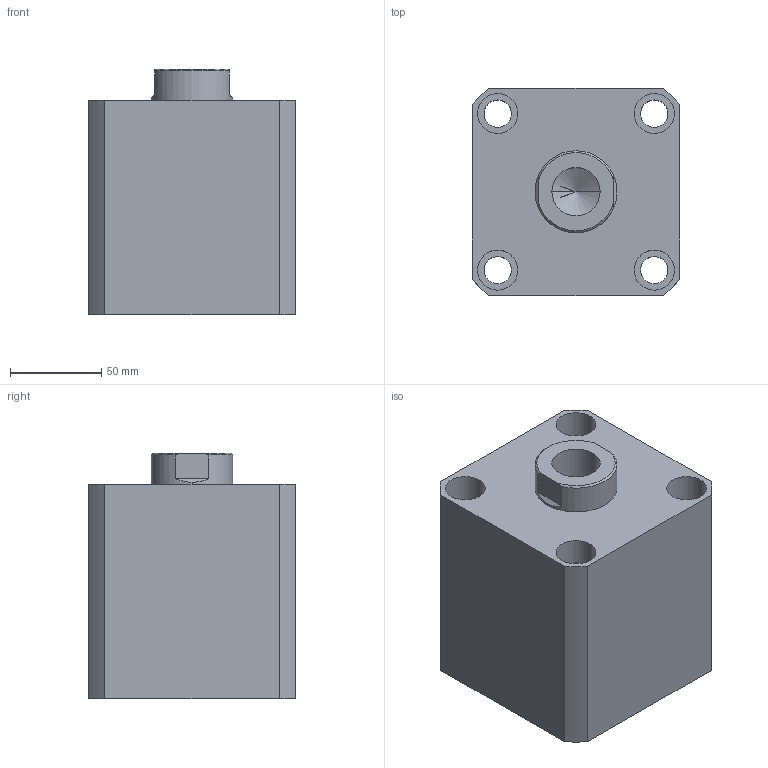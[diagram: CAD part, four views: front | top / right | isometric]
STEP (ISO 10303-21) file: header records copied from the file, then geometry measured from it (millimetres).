
FILE_DESCRIPTION (( 'STEP AP203' ), '1' );
FILE_NAME ('HTB-SDMB80-40N.STEP', '2019-10-09T06:03:37', ( '微软用户' ), ( '微软中国' ), 'SwSTEP 2.0', 'SolidWorks 2012', '' );
FILE_SCHEMA (( 'CONFIG_CONTROL_DESIGN' ));
Length unit declared in the file: millimetre
Products named in the file (3): HTB-SDMB80-40掛极; HTB-SDMB80-40N活塞杆; HTB-SDMB80-40N
Assembly tree (2 placements, depth 2):
  HTB-SDMB80-40N
    HTB-SDMB80-40掛极
    HTB-SDMB80-40N活塞杆
Bounding box: 114 x 114 x 135 mm (x, y, z)
Volume: 1272687.8 mm3; surface area: 163743.8 mm2
Topology: 2 solids, 2 shells, 137 faces, 331 edges, 217 vertices
Faces by surface type: plane 65, cylinder 46, bspline 16, torus 6, cone 4
Entity records: 5070 total; most frequent: CARTESIAN_POINT 1576, ORIENTED_EDGE 658, DIRECTION 647, EDGE_CURVE 329, AXIS2_PLACEMENT_3D 232, VERTEX_POINT 217, LINE 183, VECTOR 183
